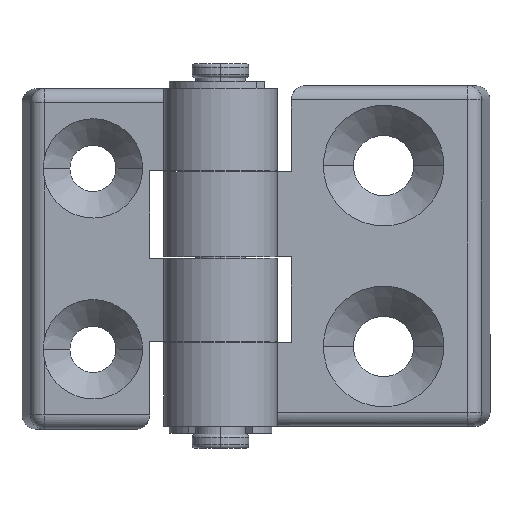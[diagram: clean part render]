
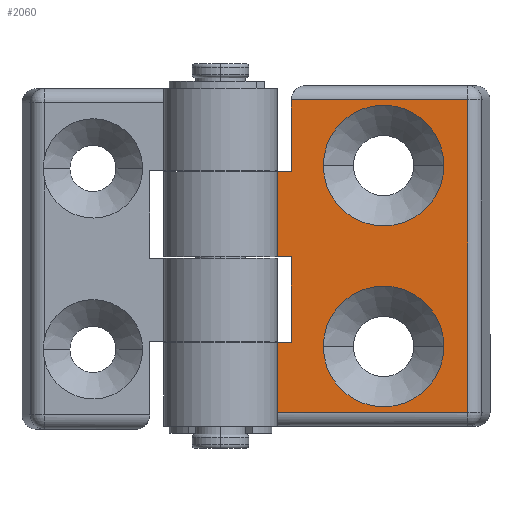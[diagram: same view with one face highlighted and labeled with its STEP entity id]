
A CAD part, top view. The second image highlights one B-rep face of the part: STEP entity #2060.
In plain terms, the highlighted planar face has unit normal (0, 0, 1).
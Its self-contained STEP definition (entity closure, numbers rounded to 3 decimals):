
#35 = DIRECTION ( 'NONE',  ( 1., 0., 0. ) ) ;
#41 = VECTOR ( 'NONE', #1197, 1000. ) ;
#82 = FACE_BOUND ( 'NONE', #3960, .T. ) ;
#85 = VECTOR ( 'NONE', #1168, 1000. ) ;
#195 = ORIENTED_EDGE ( 'NONE', *, *, #4335, .F. ) ;
#196 = ORIENTED_EDGE ( 'NONE', *, *, #3774, .F. ) ;
#241 = EDGE_CURVE ( 'NONE', #2810, #1589, #1784, .T. ) ;
#260 = CARTESIAN_POINT ( 'NONE',  ( -15., 24., 4. ) ) ;
#309 = VERTEX_POINT ( 'NONE', #4440 ) ;
#326 = CARTESIAN_POINT ( 'NONE',  ( 11.84, 0., 4. ) ) ;
#338 = DIRECTION ( 'NONE',  ( 1., 0., 0. ) ) ;
#345 = LINE ( 'NONE', #2584, #85 ) ;
#407 = FACE_OUTER_BOUND ( 'NONE', #3244, .T. ) ;
#486 = CARTESIAN_POINT ( 'NONE',  ( -8.5, 12.75, 4. ) ) ;
#524 = VECTOR ( 'NONE', #2635, 1000. ) ;
#581 = ORIENTED_EDGE ( 'NONE', *, *, #241, .T. ) ;
#598 = CARTESIAN_POINT ( 'NONE',  ( 0., 12.75, 4. ) ) ;
#620 = DIRECTION ( 'NONE',  ( 1., 0., 0. ) ) ;
#712 = EDGE_CURVE ( 'NONE', #2826, #804, #1278, .T. ) ;
#761 = CARTESIAN_POINT ( 'NONE',  ( 11.84, -22., 4. ) ) ;
#804 = VERTEX_POINT ( 'NONE', #3093 ) ;
#849 = LINE ( 'NONE', #326, #3905 ) ;
#899 = LINE ( 'NONE', #260, #3753 ) ;
#919 = ORIENTED_EDGE ( 'NONE', *, *, #4813, .T. ) ;
#920 = AXIS2_PLACEMENT_3D ( 'NONE', #1501, #4672, #3293 ) ;
#924 = DIRECTION ( 'NONE',  ( 0., 0., 1. ) ) ;
#1083 = CARTESIAN_POINT ( 'NONE',  ( -8.5, -12.75, 4. ) ) ;
#1127 = VECTOR ( 'NONE', #35, 1000. ) ;
#1168 = DIRECTION ( 'NONE',  ( 1., 0., 0. ) ) ;
#1187 = ORIENTED_EDGE ( 'NONE', *, *, #4819, .T. ) ;
#1188 = EDGE_CURVE ( 'NONE', #1233, #1412, #4754, .T. ) ;
#1197 = DIRECTION ( 'NONE',  ( 1., 0., 0. ) ) ;
#1233 = VERTEX_POINT ( 'NONE', #1083 ) ;
#1278 = CIRCLE ( 'NONE', #4336, 8.5 ) ;
#1299 = CARTESIAN_POINT ( 'NONE',  ( 11.84, 22., 4. ) ) ;
#1412 = VERTEX_POINT ( 'NONE', #1583 ) ;
#1449 = EDGE_CURVE ( 'NONE', #309, #4809, #2863, .T. ) ;
#1466 = PLANE ( 'NONE',  #3277 ) ;
#1501 = CARTESIAN_POINT ( 'NONE',  ( 0., -12.75, 4. ) ) ;
#1516 = DIRECTION ( 'NONE',  ( 0., -1., 0. ) ) ;
#1525 = AXIS2_PLACEMENT_3D ( 'NONE', #4557, #1965, #2348 ) ;
#1583 = CARTESIAN_POINT ( 'NONE',  ( 8.5, -12.75, 4. ) ) ;
#1589 = VERTEX_POINT ( 'NONE', #4000 ) ;
#1784 = LINE ( 'NONE', #3782, #524 ) ;
#1880 = EDGE_CURVE ( 'NONE', #804, #2826, #3559, .T. ) ;
#1965 = DIRECTION ( 'NONE',  ( 0., 0., -1. ) ) ;
#2060 = ADVANCED_FACE ( 'NONE', ( #3974, #82, #407 ), #1466, .T. ) ;
#2072 = DIRECTION ( 'NONE',  ( 0., -1., 0. ) ) ;
#2178 = VERTEX_POINT ( 'NONE', #761 ) ;
#2217 = DIRECTION ( 'NONE',  ( -1., 0., 0. ) ) ;
#2316 = CARTESIAN_POINT ( 'NONE',  ( -13., -12.2, 4. ) ) ;
#2348 = DIRECTION ( 'NONE',  ( 1., 0., 0. ) ) ;
#2358 = CARTESIAN_POINT ( 'NONE',  ( -15., -0.1, 4. ) ) ;
#2375 = CARTESIAN_POINT ( 'NONE',  ( 0., -0.1, 4. ) ) ;
#2379 = LINE ( 'NONE', #2375, #4869 ) ;
#2402 = CARTESIAN_POINT ( 'NONE',  ( -15., 24., 4. ) ) ;
#2487 = CARTESIAN_POINT ( 'NONE',  ( 13.5, -22., 4. ) ) ;
#2560 = DIRECTION ( 'NONE',  ( 0., 0., 1. ) ) ;
#2584 = CARTESIAN_POINT ( 'NONE',  ( 0., -12.2, 4. ) ) ;
#2635 = DIRECTION ( 'NONE',  ( 0., -1., 0. ) ) ;
#2721 = VERTEX_POINT ( 'NONE', #4155 ) ;
#2741 = ORIENTED_EDGE ( 'NONE', *, *, #3276, .T. ) ;
#2745 = LINE ( 'NONE', #2487, #41 ) ;
#2746 = CARTESIAN_POINT ( 'NONE',  ( -13., 22., 4. ) ) ;
#2766 = CARTESIAN_POINT ( 'NONE',  ( -15., 11.9, 4. ) ) ;
#2810 = VERTEX_POINT ( 'NONE', #2746 ) ;
#2826 = VERTEX_POINT ( 'NONE', #486 ) ;
#2829 = LINE ( 'NONE', #3195, #1127 ) ;
#2844 = VERTEX_POINT ( 'NONE', #2766 ) ;
#2854 = ORIENTED_EDGE ( 'NONE', *, *, #1880, .F. ) ;
#2863 = LINE ( 'NONE', #4683, #3514 ) ;
#3045 = CARTESIAN_POINT ( 'NONE',  ( -15., -12.2, 4. ) ) ;
#3068 = CARTESIAN_POINT ( 'NONE',  ( -13., 22., 4. ) ) ;
#3093 = CARTESIAN_POINT ( 'NONE',  ( 8.5, 12.75, 4. ) ) ;
#3195 = CARTESIAN_POINT ( 'NONE',  ( 0., 11.9, 4. ) ) ;
#3232 = EDGE_CURVE ( 'NONE', #3390, #2721, #3716, .T. ) ;
#3243 = EDGE_CURVE ( 'NONE', #3971, #309, #2379, .T. ) ;
#3244 = EDGE_LOOP ( 'NONE', ( #1187, #919, #581, #195, #2741, #3674, #4891, #196, #4429, #4877 ) ) ;
#3276 = EDGE_CURVE ( 'NONE', #2844, #3971, #899, .T. ) ;
#3277 = AXIS2_PLACEMENT_3D ( 'NONE', #3430, #2560, #4414 ) ;
#3289 = DIRECTION ( 'NONE',  ( 0., 0., 1. ) ) ;
#3293 = DIRECTION ( 'NONE',  ( 1., 0., 0. ) ) ;
#3390 = VERTEX_POINT ( 'NONE', #3045 ) ;
#3400 = AXIS2_PLACEMENT_3D ( 'NONE', #4556, #924, #620 ) ;
#3424 = EDGE_LOOP ( 'NONE', ( #4477, #4607 ) ) ;
#3430 = CARTESIAN_POINT ( 'NONE',  ( 0., 0., 4. ) ) ;
#3472 = CIRCLE ( 'NONE', #920, 8.5 ) ;
#3514 = VECTOR ( 'NONE', #1516, 1000. ) ;
#3559 = CIRCLE ( 'NONE', #3400, 8.5 ) ;
#3612 = VECTOR ( 'NONE', #2072, 1000. ) ;
#3674 = ORIENTED_EDGE ( 'NONE', *, *, #3243, .T. ) ;
#3716 = LINE ( 'NONE', #2402, #3612 ) ;
#3753 = VECTOR ( 'NONE', #4521, 1000. ) ;
#3774 = EDGE_CURVE ( 'NONE', #3390, #4809, #345, .T. ) ;
#3782 = CARTESIAN_POINT ( 'NONE',  ( -13., 0., 4. ) ) ;
#3905 = VECTOR ( 'NONE', #4725, 1000. ) ;
#3960 = EDGE_LOOP ( 'NONE', ( #2854, #4731 ) ) ;
#3971 = VERTEX_POINT ( 'NONE', #2358 ) ;
#3974 = FACE_BOUND ( 'NONE', #3424, .T. ) ;
#4000 = CARTESIAN_POINT ( 'NONE',  ( -13., 11.9, 4. ) ) ;
#4042 = EDGE_CURVE ( 'NONE', #2721, #2178, #2745, .T. ) ;
#4155 = CARTESIAN_POINT ( 'NONE',  ( -15., -22., 4. ) ) ;
#4174 = EDGE_CURVE ( 'NONE', #1412, #1233, #3472, .T. ) ;
#4335 = EDGE_CURVE ( 'NONE', #2844, #1589, #2829, .T. ) ;
#4336 = AXIS2_PLACEMENT_3D ( 'NONE', #598, #3289, #338 ) ;
#4414 = DIRECTION ( 'NONE',  ( 1., 0., 0. ) ) ;
#4429 = ORIENTED_EDGE ( 'NONE', *, *, #3232, .T. ) ;
#4440 = CARTESIAN_POINT ( 'NONE',  ( -13., -0.1, 4. ) ) ;
#4469 = LINE ( 'NONE', #3068, #4931 ) ;
#4477 = ORIENTED_EDGE ( 'NONE', *, *, #4174, .T. ) ;
#4521 = DIRECTION ( 'NONE',  ( 0., -1., 0. ) ) ;
#4556 = CARTESIAN_POINT ( 'NONE',  ( 0., 12.75, 4. ) ) ;
#4557 = CARTESIAN_POINT ( 'NONE',  ( 0., -12.75, 4. ) ) ;
#4607 = ORIENTED_EDGE ( 'NONE', *, *, #1188, .T. ) ;
#4672 = DIRECTION ( 'NONE',  ( 0., 0., -1. ) ) ;
#4683 = CARTESIAN_POINT ( 'NONE',  ( -13., 0., 4. ) ) ;
#4698 = DIRECTION ( 'NONE',  ( 1., 0., 0. ) ) ;
#4725 = DIRECTION ( 'NONE',  ( 0., 1., 0. ) ) ;
#4731 = ORIENTED_EDGE ( 'NONE', *, *, #712, .F. ) ;
#4754 = CIRCLE ( 'NONE', #1525, 8.5 ) ;
#4809 = VERTEX_POINT ( 'NONE', #2316 ) ;
#4813 = EDGE_CURVE ( 'NONE', #4904, #2810, #4469, .T. ) ;
#4819 = EDGE_CURVE ( 'NONE', #2178, #4904, #849, .T. ) ;
#4869 = VECTOR ( 'NONE', #4698, 1000. ) ;
#4877 = ORIENTED_EDGE ( 'NONE', *, *, #4042, .T. ) ;
#4891 = ORIENTED_EDGE ( 'NONE', *, *, #1449, .T. ) ;
#4904 = VERTEX_POINT ( 'NONE', #1299 ) ;
#4931 = VECTOR ( 'NONE', #2217, 1000. ) ;
